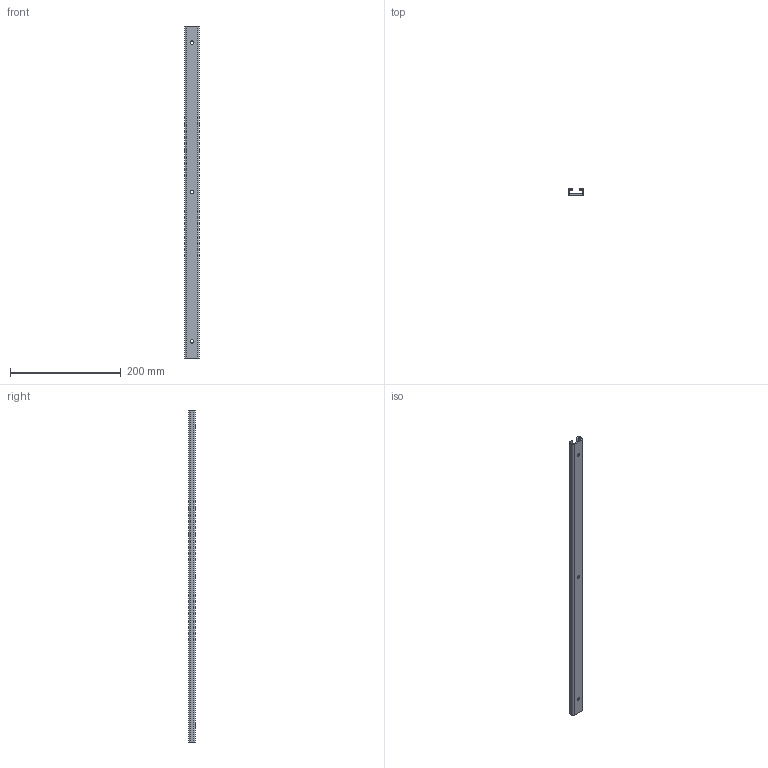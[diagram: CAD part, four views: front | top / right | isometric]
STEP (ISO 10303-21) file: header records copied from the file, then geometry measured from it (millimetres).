
FILE_DESCRIPTION (( 'STEP AP214' ), '1' );
FILE_NAME ('C-skena 600mm.STEP', '2014-04-10T14:31:29', ( '' ), ( '' ), 'SwSTEP 2.0', 'SolidWorks 2012', '' );
FILE_SCHEMA (( 'AUTOMOTIVE_DESIGN' ));
Length unit declared in the file: millimetre
Products named in the file (1): C-skena 600mm
Bounding box: 27 x 12 x 600 mm (x, y, z)
Volume: 65171.8 mm3; surface area: 67990.7 mm2
Topology: 1 solids, 1 shells, 28 faces, 78 edges, 52 vertices
Faces by surface type: plane 14, cylinder 8, cone 6
Entity records: 1198 total; most frequent: DIRECTION 164, CARTESIAN_POINT 159, ORIENTED_EDGE 156, EDGE_CURVE 78, AXIS2_PLACEMENT_3D 57, VERTEX_POINT 52, LINE 50, VECTOR 50
